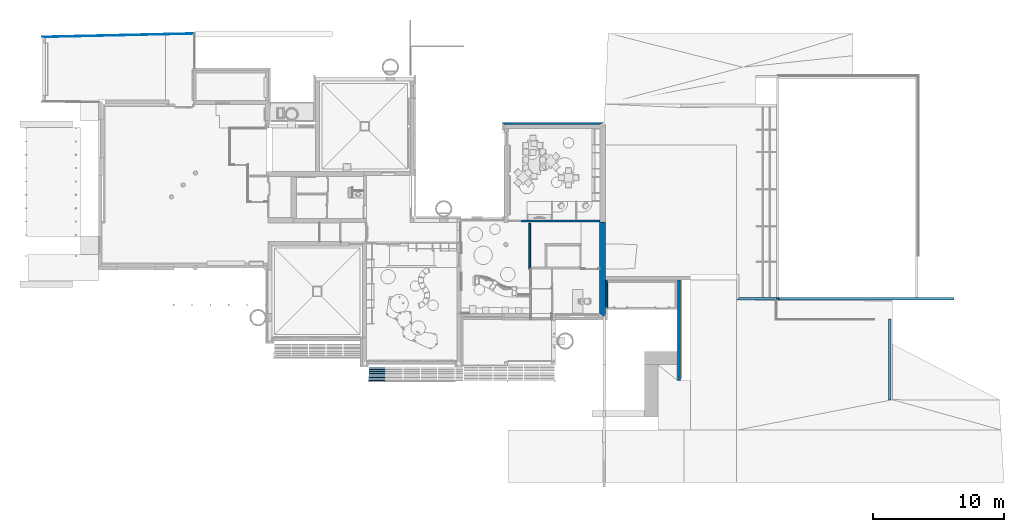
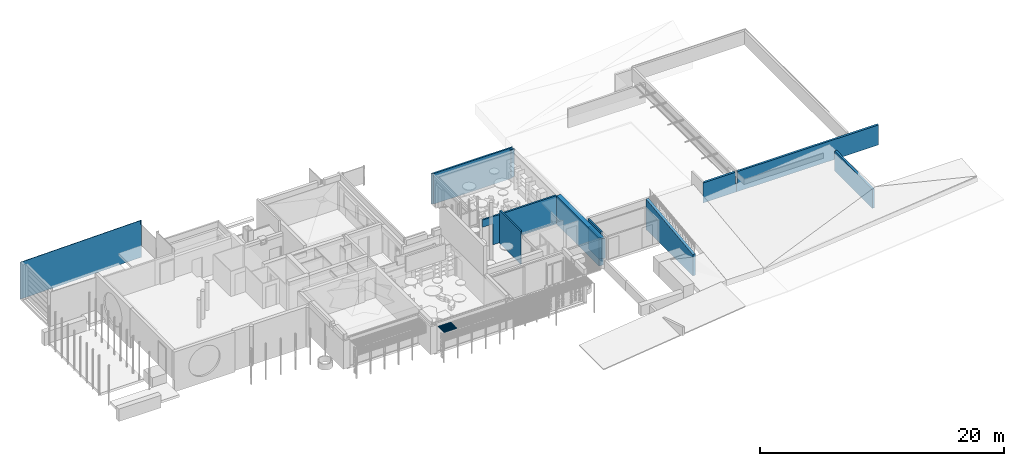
# One storey, part 29 of 64: 11 walls, 1 discrete accessory.
"""IFC2X3 building model written with IfcOpenShell, lengths in metres."""

from ifc_helpers import new_model, entity, si_unit, converted_unit, derived_unit, direction, frame, origin, place, context, subcontext, project, spatial, polyline, outline, extrude, faceted_brep, source, transform, mapped, material, layer, layer_set, type_object, type_shapes, element, save


model = new_model("IFC2X3")

# Units and contexts
model_context = context("Model", 3, precision=1e-05, world=origin(), true_north=direction((6.123031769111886e-17, 1.0)))
body_context = subcontext(model_context, "Body", "Model", "MODEL_VIEW")
ifc_project = project(units=[si_unit("LENGTHUNIT", "METRE"), si_unit("AREAUNIT", "SQUARE_METRE"), si_unit("VOLUMEUNIT", "CUBIC_METRE"), converted_unit("PLANEANGLEUNIT", "DEGREE", entity("IfcRatioMeasure", 0.017453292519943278), si_unit("PLANEANGLEUNIT", "RADIAN"), dimensions=[0, 0, 0, 0, 0, 0, 0]), si_unit("MASSUNIT", "GRAM", prefix="KILO"), derived_unit("MASSDENSITYUNIT", [(si_unit("MASSUNIT", "GRAM", prefix="KILO"), 1), (si_unit("LENGTHUNIT", "METRE"), -3)]), derived_unit("MOMENTOFINERTIAUNIT", [(si_unit("LENGTHUNIT", "METRE"), 4)]), si_unit("TIMEUNIT", "SECOND"), si_unit("FREQUENCYUNIT", "HERTZ"), si_unit("THERMODYNAMICTEMPERATUREUNIT", "DEGREE_CELSIUS"), derived_unit("THERMALTRANSMITTANCEUNIT", [(si_unit("MASSUNIT", "GRAM", prefix="KILO"), 1), (si_unit("THERMODYNAMICTEMPERATUREUNIT", "KELVIN"), -1), (si_unit("TIMEUNIT", "SECOND"), -3)]), derived_unit("THERMALCONDUCTANCEUNIT", [(si_unit("MASSUNIT", "GRAM", prefix="KILO"), 1), (si_unit("LENGTHUNIT", "METRE"), 1), (si_unit("THERMODYNAMICTEMPERATUREUNIT", "KELVIN"), -1), (si_unit("TIMEUNIT", "SECOND"), -3)]), derived_unit("VOLUMETRICFLOWRATEUNIT", [(si_unit("LENGTHUNIT", "METRE"), 3), (si_unit("TIMEUNIT", "SECOND"), -1)]), derived_unit("MASSFLOWRATEUNIT", [(si_unit("MASSUNIT", "GRAM", prefix="KILO"), 1), (si_unit("TIMEUNIT", "SECOND"), -1)]), derived_unit("ROTATIONALFREQUENCYUNIT", [(si_unit("TIMEUNIT", "SECOND"), -1)]), si_unit("ELECTRICCURRENTUNIT", "AMPERE"), si_unit("ELECTRICVOLTAGEUNIT", "VOLT"), si_unit("POWERUNIT", "WATT"), si_unit("FORCEUNIT", "NEWTON", prefix="KILO"), si_unit("ILLUMINANCEUNIT", "LUX"), si_unit("LUMINOUSFLUXUNIT", "LUMEN"), si_unit("LUMINOUSINTENSITYUNIT", "CANDELA"), derived_unit("USERDEFINED", [(si_unit("MASSUNIT", "GRAM", prefix="KILO"), -1), (si_unit("LENGTHUNIT", "METRE"), -2), (si_unit("TIMEUNIT", "SECOND"), 3), (si_unit("LUMINOUSFLUXUNIT", "LUMEN"), 1)]), derived_unit("USERDEFINED", [(si_unit("MASSUNIT", "GRAM", prefix="KILO"), 1), (si_unit("LENGTHUNIT", "METRE"), 3), (si_unit("TIMEUNIT", "SECOND"), -3), (si_unit("ELECTRICCURRENTUNIT", "AMPERE"), -2)]), derived_unit("USERDEFINED", [(si_unit("LENGTHUNIT", "METRE"), 2), (si_unit("TIMEUNIT", "SECOND"), -2)]), derived_unit("SOUNDPOWERUNIT", [(si_unit("MASSUNIT", "GRAM", prefix="KILO"), 1), (si_unit("LENGTHUNIT", "METRE"), 2), (si_unit("TIMEUNIT", "SECOND"), -3)]), derived_unit("SOUNDPRESSUREUNIT", [(si_unit("MASSUNIT", "GRAM", prefix="KILO"), 1), (si_unit("LENGTHUNIT", "METRE"), -1), (si_unit("TIMEUNIT", "SECOND"), -2)]), derived_unit("LINEARVELOCITYUNIT", [(si_unit("LENGTHUNIT", "METRE"), 1), (si_unit("TIMEUNIT", "SECOND"), -1)]), si_unit("PRESSUREUNIT", "PASCAL"), derived_unit("USERDEFINED", [(si_unit("LENGTHUNIT", "METRE"), -2), (si_unit("MASSUNIT", "GRAM", prefix="KILO"), 1), (si_unit("TIMEUNIT", "SECOND"), -2)]), derived_unit("LINEARFORCEUNIT", [(si_unit("MASSUNIT", "GRAM", prefix="KILO"), 1), (si_unit("LENGTHUNIT", "METRE"), 1), (si_unit("TIMEUNIT", "SECOND"), -2), (si_unit("LENGTHUNIT", "METRE"), -1)]), derived_unit("PLANARFORCEUNIT", [(si_unit("MASSUNIT", "GRAM", prefix="KILO"), 1), (si_unit("LENGTHUNIT", "METRE"), 1), (si_unit("TIMEUNIT", "SECOND"), -2), (si_unit("LENGTHUNIT", "METRE"), -2)]), derived_unit("SPECIFICHEATCAPACITYUNIT", [(si_unit("LENGTHUNIT", "METRE"), 2), (si_unit("TIMEUNIT", "SECOND"), -2), (si_unit("THERMODYNAMICTEMPERATUREUNIT", "KELVIN"), -1)]), derived_unit("VAPORPERMEABILITYUNIT", [(si_unit("TIMEUNIT", "SECOND"), 1), (si_unit("LENGTHUNIT", "METRE"), -1)]), derived_unit("DYNAMICVISCOSITYUNIT", [(si_unit("MASSUNIT", "GRAM", prefix="KILO"), 1), (si_unit("LENGTHUNIT", "METRE"), -1), (si_unit("TIMEUNIT", "SECOND"), -1)]), derived_unit("THERMALEXPANSIONCOEFFICIENTUNIT", [(si_unit("THERMODYNAMICTEMPERATUREUNIT", "KELVIN"), -1)])], contexts=[model_context])

# Site, building, storey
site_placement = place(None, origin())
site = spatial("IfcSite", under=ifc_project, at=site_placement, Name="Default", CompositionType="ELEMENT")
building_placement = place(site_placement, origin())
building = spatial("IfcBuilding", under=site, at=building_placement, CompositionType="ELEMENT")
storey_placement = place(building_placement, origin())
storey = spatial("IfcBuildingStorey", under=building, at=storey_placement, Name="REZ-DE-CHAUSSÉE", CompositionType="ELEMENT", Elevation=0.0)

# Walls
wall_type_1 = type_object("IfcWallType", Name="MurExt-021", PredefinedType="NOTDEFINED")
wall_1_placement = place(storey_placement, frame((133.89075228, 2.967209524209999, 0.05), z_axis=(0.0, 0.0, 1.0), x_axis=(0.0, 1.0, 0.0)))
element("IfcWall", 1, at=wall_1_placement, inside=storey, type_object=wall_type_1, Name="MurExt-021:MurExt-021", ObjectType="MurExt-021:MurExt-021", context=body_context, shape_type="Brep", body=[
    faceted_brep([(0.0, -0.24999999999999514, 0.0), (0.0, 0.0, 0.0), (7.67000002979, 0.0, 0.0), (7.67000002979, -0.24999999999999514, 0.0), (0.0, 0.0, 2.1295999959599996), (7.67000002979, 0.0, 3.04999999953), (7.67000002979, 0.0, 3.01), (0.0, -0.24999999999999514, 2.129599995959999), (7.67000002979, -0.24999999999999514, 3.01), (7.6700000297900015, -0.24999999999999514, 3.04999999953)], [[[0, 1, 2, 3]], [[2, 1, 4, 5, 6]], [[1, 0, 7, 4]], [[0, 3, 8, 9, 7]], [[6, 8, 3, 2]], [[9, 5, 4, 7]], [[8, 6, 5, 9]]]),
])
wall_type_2 = type_object("IfcWallType", Name="MurExt-021", PredefinedType="NOTDEFINED")
wall_2_placement = place(storey_placement, frame((150.00075228, 1.4872094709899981, 2.05), z_axis=(0.0, 0.0, 1.0), x_axis=(0.0, 1.0, 0.0)))
element("IfcWall", 2, at=wall_2_placement, inside=storey, type_object=wall_type_2, Name="MurExt-021 147586:MurExt-021 147586", ObjectType="MurExt-021 147586:MurExt-021 147586", context=body_context, shape_type="Brep", body=[
    faceted_brep([(0.0, 0.0, 0.0), (6.1600000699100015, 0.0, 0.0), (6.1600000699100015, -0.1999999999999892, 0.0), (0.0, -0.1999999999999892, 0.0), (0.0, 0.0, 1.8967999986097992), (6.1600000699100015, 0.0, 2.02000000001), (0.0, -0.1999999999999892, 1.8967999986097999), (6.160000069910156, -0.1999999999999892, 2.0200000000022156)], [[[0, 1, 2, 3]], [[1, 0, 4, 5]], [[0, 3, 6, 4]], [[3, 2, 7, 6]], [[2, 1, 5, 7]], [[5, 4, 6, 7]]]),
])
ifc_material_1 = material(Name="Enduit - Jaune nature")
ifc_layer_1 = layer(ifc_material_1, 0.02)
ifc_material_2 = material(Name="Isolation - Fibre de verre")
ifc_layer_2 = layer(ifc_material_2, 0.14)
ifc_layer_set_1 = layer_set([ifc_layer_1, ifc_layer_2], Name="Mur de base:ABA ITE 140 + enduit 160")
wall_type_3 = type_object("IfcWallType", Name="Mur de base:ABA ITE 140 + enduit 160", PredefinedType="STANDARD", material=ifc_layer_set_1)
wall_3_placement = place(storey_placement, frame((120.52075227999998, 22.577209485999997, 0.0)))
element("IfcWallStandardCase", 3, at=wall_3_placement, inside=storey, type_object=wall_type_3, Name="MurExt-012", ObjectType="Mur de base:ABA ITE 140 + enduit 160", context=body_context, shape_type="Brep", body=[
    faceted_brep([(0.15999999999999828, -0.07999999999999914, 0.0), (7.47, -0.07999999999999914, 0.0), (7.4700000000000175, -0.07999999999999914, 2.82), (7.390000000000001, -0.07999999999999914, 2.82), (7.390000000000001, -0.07999999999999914, 3.06), (0.15999999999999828, -0.07999999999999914, 3.06), (0.0, 0.07999999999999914, 0.0), (0.0, 0.07999999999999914, 3.06), (7.680000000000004, 0.07999999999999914, 3.06), (7.680000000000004, 0.07999999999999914, 2.82), (7.880000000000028, 0.07999999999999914, 2.82), (7.8800000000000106, 0.07999999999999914, 0.0)], [[[0, 1, 2, 3, 4, 5]], [[6, 7, 8, 9, 10, 11]], [[1, 0, 6, 11]], [[5, 4, 8, 7]], [[0, 5, 7, 6]], [[9, 3, 2, 10]], [[2, 1, 11, 10]], [[4, 3, 9, 8]]]),
])
wall_4_placement = place(storey_placement, frame((128.48075228, 10.637209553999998, 2.3499999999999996), z_axis=(0.0, 0.0, 1.0), x_axis=(0.0, -1.0, 0.0)))
element("IfcWallStandardCase", 4, at=wall_4_placement, inside=storey, type_object=wall_type_3, Name="MurExt-012", ObjectType="Mur de base:ABA ITE 140 + enduit 160", context=body_context, shape_type="Brep", body=[
    faceted_brep([(0.0, -0.07999999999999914, 0.0), (2.12, -0.07999999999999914, 0.0), (2.12, -0.07999999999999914, 0.05), (2.184999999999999, -0.07999999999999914, 0.05), (2.184999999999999, -0.07999999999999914, 0.6900000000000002), (0.0, -0.07999999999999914, 0.6900000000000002), (0.0, 0.07999999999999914, 0.0), (0.0, 0.07999999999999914, 0.6900000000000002), (2.184999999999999, 0.07999999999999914, 0.6900000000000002), (2.184999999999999, 0.07999999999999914, 0.05), (2.12, 0.07999999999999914, 0.05), (2.12, 0.07999999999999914, 0.0), (2.12, -0.030000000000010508, 0.0)], [[[0, 1, 2, 3, 4, 5]], [[6, 7, 8, 9, 10, 11]], [[1, 0, 6, 11, 12]], [[5, 4, 8, 7]], [[0, 5, 7, 6]], [[4, 3, 9, 8]], [[9, 3, 2, 10]], [[2, 1, 12, 11, 10]]]),
])
ifc_material_3 = material(Name="Béton - Parpaing (Blocs)")
ifc_layer_3 = layer(ifc_material_3, 0.2)
ifc_layer_set_2 = layer_set([ifc_layer_3], Name="Mur de base:Struct. - Parpaing béton 200")
wall_type_4 = type_object("IfcWallType", Name="Mur de base:Struct. - Parpaing béton 200", PredefinedType="STANDARD", material=ifc_layer_set_2)
wall_5_placement = place(storey_placement, frame((141.56275227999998, 9.18720952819, 2.05), z_axis=(0.0, 0.0, 1.0), x_axis=(-1.0, 0.0, 0.0)))
element("IfcWallStandardCase", 5, at=wall_5_placement, inside=storey, type_object=wall_type_4, Name="MurExt-021", ObjectType="Mur de base:Struct. - Parpaing béton 200", context=body_context, shape_type="Brep", body=[
    faceted_brep([(0.0, -0.1, 0.0), (2.9620000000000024, -0.1, 0.0), (2.9620000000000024, -0.1, 2.0), (0.0999999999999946, -0.1, 2.0), (0.0999999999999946, -0.1, 0.8), (0.0, -0.1, 0.8), (0.0, 0.1, 0.0), (0.0, 0.1, 0.8), (0.0999999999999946, 0.1, 0.8), (0.0999999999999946, 0.1, 2.0), (3.1619999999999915, 0.1, 2.0), (3.1619999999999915, 0.1, 0.0)], [[[0, 1, 2, 3, 4, 5]], [[6, 7, 8, 9, 10, 11]], [[1, 0, 6, 11]], [[3, 2, 10, 9]], [[2, 1, 11, 10]], [[0, 5, 7, 6]], [[4, 8, 7, 5]], [[4, 3, 9, 8]]]),
])
wall_6_placement = place(storey_placement, frame((154.97575227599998, 9.18720952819, 2.05), z_axis=(0.0, 0.0, 1.0), x_axis=(-1.0, 0.0, 0.0)))
element("IfcWallStandardCase", 6, at=wall_6_placement, inside=storey, type_object=wall_type_4, Name="MurExt-021", ObjectType="Mur de base:Struct. - Parpaing béton 200", context=body_context, shape_type="Brep", body=[
    faceted_brep([(0.0, -0.1, 0.0), (13.41299999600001, -0.1, 0.0), (13.41299999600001, -0.1, 0.8), (13.312999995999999, -0.1, 0.8), (13.312999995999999, -0.1, 2.0), (0.0, -0.1, 2.0), (0.0, 0.1, 0.0), (0.0, 0.1, 2.0), (13.312999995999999, 0.1, 2.0), (13.312999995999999, 0.1, 0.8), (13.41299999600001, 0.1, 0.8), (13.41299999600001, 0.1, 0.0)], [[[0, 1, 2, 3, 4, 5]], [[6, 7, 8, 9, 10, 11]], [[1, 0, 6, 11]], [[5, 4, 8, 7]], [[0, 5, 7, 6]], [[2, 1, 11, 10]], [[9, 3, 2, 10]], [[4, 3, 9, 8]]]),
])
ifc_material_4 = material(Name="Appareillage - Pierre taillé")
ifc_layer_4 = layer(ifc_material_4, 0.16)
ifc_layer_set_3 = layer_set([ifc_layer_4], Name="Mur de base:Struct. - Pierre 160")
wall_type_5 = type_object("IfcWallType", Name="Mur de base:Struct. - Pierre 160", PredefinedType="STANDARD", material=ifc_layer_set_3)
wall_7_placement = place(storey_placement, frame((127.99075228, 15.127209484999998, 0.0), z_axis=(0.0, 0.0, 1.0), x_axis=(-1.0, 0.0, 0.0)))
element("IfcWallStandardCase", 7, at=wall_7_placement, inside=storey, type_object=wall_type_5, Name="MurExt-010", ObjectType="Mur de base:Struct. - Pierre 160", context=body_context, shape_type="Brep", body=[
    faceted_brep([(7.0100000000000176, -0.0800000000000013, 2.8199999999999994), (0.0, -0.0800000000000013, 2.8199999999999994), (0.0, -0.0800000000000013, 0.0), (6.0249999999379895, -0.0800000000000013, 0.0), (6.0249999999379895, -0.0800000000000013, 2.09), (6.980000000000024, -0.0800000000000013, 2.09), (6.980000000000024, -0.0800000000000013, 2.8), (7.0100000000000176, -0.0800000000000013, 2.8), (0.0, 0.07999999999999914, 2.8199999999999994), (0.02000000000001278, 0.07999999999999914, 2.8199999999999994), (7.0100000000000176, 0.07999999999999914, 2.8199999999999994), (7.0100000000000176, 0.07999999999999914, 2.8), (6.980000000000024, 0.07999999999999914, 2.8), (6.980000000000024, 0.07999999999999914, 2.09), (6.0249999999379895, 0.07999999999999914, 2.09), (6.0249999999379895, 0.07999999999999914, 0.0), (0.02000000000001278, 0.07999999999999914, 0.0), (0.0, 0.07999999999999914, 0.0)], [[[0, 1, 2, 3, 4, 5, 6, 7]], [[8, 9, 10, 11, 12, 13, 14, 15, 16, 17]], [[2, 17, 16, 15, 3]], [[1, 0, 10, 9, 8]], [[4, 14, 13, 5]], [[14, 4, 3, 15]], [[2, 1, 8, 17]], [[7, 6, 12, 11]], [[12, 6, 5, 13]], [[0, 7, 11, 10]]]),
])
ifc_layer_5 = layer(ifc_material_4, 0.14)
ifc_layer_set_4 = layer_set([ifc_layer_5], Name="Mur de base:Struct. - Pierre 140")
wall_type_6 = type_object("IfcWallType", Name="Mur de base:Struct. - Pierre 140", PredefinedType="STANDARD", material=ifc_layer_set_4)
wall_8_placement = place(storey_placement, frame((122.63075228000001, 11.437209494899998, 0.0), z_axis=(0.0, 0.0, 1.0), x_axis=(0.0, 1.0, 0.0)))
element("IfcWallStandardCase", 8, at=wall_8_placement, inside=storey, type_object=wall_type_6, Name="MurExt-012", ObjectType="Mur de base:Struct. - Pierre 140", context=body_context, shape_type="Brep", body=[
    faceted_brep([(0.16999999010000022, -0.07000000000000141, 3.06), (0.16999999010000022, -0.07000000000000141, 0.0), (3.5099999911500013, -0.07000000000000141, 0.0), (3.5099999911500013, -0.07000000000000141, 3.3), (0.17000000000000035, -0.07000000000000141, 3.3), (0.009999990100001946, 0.07000000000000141, 0.0), (0.009999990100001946, 0.07000000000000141, 3.06), (0.0, 0.07000000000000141, 3.06), (0.0, 0.07000000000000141, 3.3), (3.5099999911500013, 0.07000000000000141, 3.3), (3.5099999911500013, 0.07000000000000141, 0.0), (0.17000000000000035, -0.07000000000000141, 3.06)], [[[0, 1, 2, 3, 4]], [[5, 6, 7, 8, 9, 10]], [[2, 1, 5, 10]], [[3, 2, 10, 9]], [[4, 3, 9, 8]], [[11, 7, 6]], [[0, 6, 5, 1]], [[11, 4, 8, 7]]]),
])
ifc_layer_6 = layer(ifc_material_4, 0.43)
ifc_layer_set_5 = layer_set([ifc_layer_6], Name="Mur de base:Struct. - Pierre 430")
wall_type_7 = type_object("IfcWallType", Name="Mur de base:Struct. - Pierre 430", PredefinedType="STANDARD", material=ifc_layer_set_5)
wall_9_placement = place(storey_placement, frame((128.18575228, 15.047209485, 0.0), z_axis=(0.0, 0.0, 1.0), x_axis=(0.0, -1.0, 0.0)))
element("IfcWallStandardCase", 9, at=wall_9_placement, inside=storey, type_object=wall_type_7, Name="MurExt-002", ObjectType="Mur de base:Struct. - Pierre 430", context=body_context, shape_type="Brep", body=[
    faceted_brep([(0.0, -0.2150000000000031, 0.0), (3.530000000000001, -0.2150000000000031, 0.0), (3.6, -0.2150000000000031, 0.0), (6.970000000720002, -0.2150000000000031, 0.0), (6.970000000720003, -0.2150000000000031, 0.7999999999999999), (6.970000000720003, -0.2150000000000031, 2.8199999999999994), (0.0, -0.2150000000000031, 2.8199999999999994), (0.0, 0.2150000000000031, 0.0), (0.0, 0.2150000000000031, 2.8199999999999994), (7.300000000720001, 0.2150000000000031, 2.8199999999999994), (7.300000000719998, 0.2150000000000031, 0.7999999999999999), (6.970000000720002, 0.2150000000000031, 0.7999999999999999), (6.970000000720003, 0.2150000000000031, 0.0), (0.0, -0.19499999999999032, 0.0), (0.0, -0.19499999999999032, 2.8199999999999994), (7.214078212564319, 0.10304130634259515, 0.7999999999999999)], [[[0, 1, 2, 3, 4, 5, 6]], [[7, 8, 9, 10, 11, 12]], [[3, 2, 1, 0, 13, 7, 12]], [[6, 5, 9, 8, 14]], [[0, 6, 14, 8, 7, 13]], [[10, 15, 4, 11]], [[4, 3, 12, 11]], [[5, 4, 15, 10, 9]]]),
])
ifc_material_5 = material(Name="Métal - Fer")
ifc_layer_7 = layer(ifc_material_5, 0.05)
ifc_layer_set_6 = layer_set([ifc_layer_7], Name="Mur de base:Métal - Fer 50")
wall_type_8 = type_object("IfcWallType", Name="Mur de base:Métal - Fer 50", PredefinedType="STANDARD", material=ifc_layer_set_6)
wall_10_placement = place(storey_placement, frame((85.45106958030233, 29.157028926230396, -1.2), z_axis=(0.0, 0.0, 1.0), x_axis=(0.9997463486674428, 0.022521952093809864, 0.0)))
element("IfcWallStandardCase", 10, at=wall_10_placement, inside=storey, type_object=wall_type_8, Name="MurExt-013", ObjectType="Mur de base:Métal - Fer 50", context=body_context, shape_type="Brep", body=[
    faceted_brep([(0.22893197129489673, -0.02499999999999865, 0.0), (11.582057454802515, -0.025000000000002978, 0.0), (11.582057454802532, -0.025000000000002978, 3.27), (11.532044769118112, -0.025000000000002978, 3.27), (11.53204476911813, -0.02499999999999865, 3.7), (0.22893197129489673, -0.02499999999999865, 3.7), (0.0, 0.025000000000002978, 0.0), (0.0, 0.025000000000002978, 3.7), (0.010436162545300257, 0.02499999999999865, 3.7), (11.633196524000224, 0.02499999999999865, 3.7), (11.633196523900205, 0.02499999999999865, 3.27), (11.633196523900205, 0.02499999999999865, 0.0)], [[[0, 1, 2, 3, 4, 5]], [[6, 7, 8, 9, 10, 11]], [[1, 0, 6, 11]], [[5, 4, 9, 8, 7]], [[10, 3, 2]], [[2, 1, 11, 10]], [[4, 3, 10, 9]], [[0, 5, 7, 6]]]),
])
ifc_layer_8 = layer(ifc_material_3, 0.12999999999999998)
ifc_layer_set_7 = layer_set([ifc_layer_8], Name="Mur de base:Struct. - Parpaing béton 130")
wall_type_9 = type_object("IfcWallType", Name="Mur de base:Struct. - Parpaing béton 130", PredefinedType="STANDARD", material=ifc_layer_set_7)
wall_11_placement = place(storey_placement, frame((128.51575228, 8.452209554, 0.05), z_axis=(0.0, 0.0, 1.0), x_axis=(0.0, 1.0, 0.0)))
element("IfcWallStandardCase", 11, at=wall_11_placement, inside=storey, type_object=wall_type_9, Name="MurExt-022", ObjectType="Mur de base:Struct. - Parpaing béton 130", context=body_context, shape_type="Brep", body=[
    faceted_brep([(0.0, -0.06500000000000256, 0.0), (2.004999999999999, -0.06500000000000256, 0.0), (2.004999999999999, -0.06500000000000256, 2.3), (0.0649999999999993, -0.06500000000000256, 2.3), (0.0649999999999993, -0.06500000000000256, 0.05), (0.0, -0.06500000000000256, 0.04999999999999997), (0.0, 0.06500000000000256, 0.0), (0.0, 0.06500000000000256, 0.05), (0.0649999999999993, 0.06500000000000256, 0.05), (0.0649999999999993, 0.06500000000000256, 2.3), (2.135, 0.06500000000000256, 2.3), (2.135, 0.06500000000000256, 0.0), (0.0649999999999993, -0.0450000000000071, 2.3), (0.0, -0.0450000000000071, 0.05), (0.0649999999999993, -0.0450000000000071, 0.05)], [[[0, 1, 2, 3, 4, 5]], [[6, 7, 8, 9, 10, 11]], [[1, 0, 6, 11]], [[3, 2, 10, 9, 12]], [[2, 1, 11, 10]], [[0, 5, 13, 7, 6]], [[4, 14, 8, 7, 13, 5]], [[4, 3, 12, 9, 8, 14]]]),
])

# Discrete accessory
ifc_material_6 = material(Name="Bois - Chêne clair")
discrete_accessory_type = type_object("IfcDiscreteAccessoryType", Name="Symb-0003", material=ifc_material_6)
shared_shape = source(origin(), body_context, "Body", "SweptSolid", [
    extrude(outline(polyline([(-0.04642383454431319, -0.01856953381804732), (-0.02847328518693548, -0.01856953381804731), (-0.011760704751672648, -0.01547461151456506), (0.019188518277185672, -0.003094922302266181), (0.03342516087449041, 0.006189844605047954), (0.04642383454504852, 0.01856953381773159), (0.028473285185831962, 0.018569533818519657), (0.011760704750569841, 0.015474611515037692), (-0.019188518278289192, 0.0030949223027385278), (-0.033425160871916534, -0.006189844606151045), (-0.04642383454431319, -0.01856953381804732)])), frame((110.36575228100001, 3.9072094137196, 2.6500000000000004), z_axis=(1.0, 0.0, 0.0), x_axis=(0.0, 0.9191450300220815, 0.3939192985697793)), (0.0, 0.0, 1.0), 1.2499999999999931),
    extrude(outline(polyline([(-0.0464238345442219, -0.0185695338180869), (-0.028473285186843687, -0.018569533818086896), (-0.011760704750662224, -0.015474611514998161), (0.01918851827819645, -0.003094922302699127), (0.03342516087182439, 0.006189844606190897), (0.04642383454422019, 0.018569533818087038), (0.02847328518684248, 0.01856953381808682), (0.01176070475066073, 0.0154746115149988), (-0.01918851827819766, 0.003094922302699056), (-0.033425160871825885, -0.0061898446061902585), (-0.0464238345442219, -0.0185695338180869)])), frame((110.36575228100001, 3.8032094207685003, 2.6500000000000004), z_axis=(1.0, 0.0, 0.0), x_axis=(0.0, 0.9191450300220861, 0.39391929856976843)), (0.0, 0.0, 1.0), 1.2499999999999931),
    extrude(outline(polyline([(-0.04642383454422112, -0.01856953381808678), (-0.02847328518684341, -0.01856953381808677), (-0.011760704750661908, -0.015474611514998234), (0.01918851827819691, -0.0030949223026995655), (0.03342516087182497, 0.006189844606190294), (0.04642383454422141, 0.01856953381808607), (0.028473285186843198, 0.01856953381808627), (0.011760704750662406, 0.015474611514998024), (-0.019188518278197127, 0.0030949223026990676), (-0.03342516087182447, -0.006189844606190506), (-0.04642383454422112, -0.01856953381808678)])), frame((110.36575228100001, 3.6992094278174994, 2.6500000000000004), z_axis=(1.0, 0.0, 0.0), x_axis=(0.0, 0.9191450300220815, 0.3939192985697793)), (0.0, 0.0, 1.0), 1.2499999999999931),
    extrude(outline(polyline([(-0.046423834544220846, -0.018569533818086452), (-0.028473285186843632, -0.018569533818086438), (-0.011760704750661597, -0.01547461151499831), (0.019188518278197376, -0.003094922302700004), (0.03342516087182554, 0.0061898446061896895), (0.04642383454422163, 0.018569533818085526), (0.028473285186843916, 0.018569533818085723), (0.011760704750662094, 0.015474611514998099), (-0.01918851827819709, 0.0030949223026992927), (-0.033425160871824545, -0.0061898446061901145), (-0.046423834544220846, -0.018569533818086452)])), frame((110.36575228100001, 3.5952094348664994, 2.6500000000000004), z_axis=(1.0, 0.0, 0.0), x_axis=(0.0, 0.9191450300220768, 0.3939192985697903)), (0.0, 0.0, 1.0), 1.2499999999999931),
    extrude(outline(polyline([(-0.046423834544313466, -0.018569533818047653), (-0.028473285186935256, -0.01856953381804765), (-0.011760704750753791, -0.015474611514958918), (0.019188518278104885, -0.0030949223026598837), (0.03342516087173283, 0.006189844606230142), (0.04642383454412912, 0.01856953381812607), (0.028473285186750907, 0.018569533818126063), (0.011760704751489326, 0.015474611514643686), (-0.01918851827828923, 0.0030949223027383), (-0.03342516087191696, -0.006189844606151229), (-0.046423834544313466, -0.018569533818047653)])), frame((110.36575228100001, 3.4912094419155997, 2.6500000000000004), z_axis=(1.0, 0.0, 0.0), x_axis=(0.0, 0.9191450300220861, 0.39391929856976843)), (0.0, 0.0, 1.0), 1.2499999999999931),
    extrude(outline(polyline([(-0.04642383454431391, -0.018569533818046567), (-0.028473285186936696, -0.018569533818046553), (-0.011760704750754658, -0.01547461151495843), (0.019188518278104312, -0.0030949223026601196), (0.03342516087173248, 0.006189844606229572), (0.046423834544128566, 0.018569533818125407), (0.02847328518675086, 0.018569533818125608), (0.011760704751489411, 0.015474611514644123), (-0.019188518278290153, 0.0030949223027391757), (-0.0334251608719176, -0.006189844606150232), (-0.04642383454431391, -0.018569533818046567)])), frame((110.36575228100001, 3.3872094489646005, 2.6500000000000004), z_axis=(1.0, 0.0, 0.0), x_axis=(0.0, 0.9191450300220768, 0.3939192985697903)), (0.0, 0.0, 1.0), 1.2499999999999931),
    extrude(outline(polyline([(-0.04642383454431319, -0.018569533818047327), (-0.02847328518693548, -0.018569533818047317), (-0.011760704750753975, -0.015474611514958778), (0.019188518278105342, -0.0030949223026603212), (0.033425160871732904, 0.006189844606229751), (0.046423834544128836, 0.01856953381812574), (0.02847328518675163, 0.018569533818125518), (0.011760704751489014, 0.015474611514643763), (-0.019188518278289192, 0.0030949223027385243), (-0.033425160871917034, -0.006189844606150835), (-0.04642383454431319, -0.018569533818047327)])), frame((110.36575228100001, 3.2832094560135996, 2.6500000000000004), z_axis=(1.0, 0.0, 0.0), x_axis=(0.0, 0.9191450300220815, 0.3939192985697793)), (0.0, 0.0, 1.0), 1.2499999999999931),
    extrude(outline(polyline([(-0.046423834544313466, -0.018569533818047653), (-0.028473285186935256, -0.01856953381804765), (-0.011760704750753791, -0.015474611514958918), (0.019188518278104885, -0.0030949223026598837), (0.03342516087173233, 0.006189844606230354), (0.04642383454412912, 0.01856953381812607), (0.028473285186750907, 0.018569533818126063), (0.01176070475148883, 0.015474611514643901), (-0.01918851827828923, 0.0030949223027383), (-0.03342516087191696, -0.006189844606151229), (-0.046423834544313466, -0.018569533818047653)])), frame((110.36575228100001, 3.1792094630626, 2.6500000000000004), z_axis=(1.0, 0.0, 0.0), x_axis=(0.0, 0.9191450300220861, 0.39391929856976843)), (0.0, 0.0, 1.0), 1.2499999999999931),
    extrude(outline(polyline([(-0.04642383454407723, -0.01856953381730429), (-0.028473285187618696, -0.01856953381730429), (-0.011760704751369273, -0.015474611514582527), (0.019188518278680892, -0.0030949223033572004), (0.033425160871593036, 0.006189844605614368), (0.046423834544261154, 0.018569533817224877), (0.028473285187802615, 0.018569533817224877), (0.011760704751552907, 0.015474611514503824), (-0.019188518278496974, 0.003094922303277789), (-0.03342516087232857, -0.006189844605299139), (-0.04642383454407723, -0.01856953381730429)])), frame((110.36575228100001, 3.0752094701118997, 2.6500000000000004), z_axis=(1.0, 0.0, 0.0), x_axis=(0.0, 0.9191450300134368, 0.3939192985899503)), (0.0, 0.0, 1.0), 1.2499999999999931),
    extrude(outline(polyline([(-0.046423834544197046, -0.01856953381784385), (-0.02847328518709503, -0.01856953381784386), (-0.011760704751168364, -0.015474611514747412), (0.01918851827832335, -0.003094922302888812), (0.03342516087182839, 0.006189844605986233), (0.04642383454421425, 0.018569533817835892), (0.02847328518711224, 0.0185695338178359), (0.011760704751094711, 0.015474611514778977), (-0.019188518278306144, 0.0030949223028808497), (-0.033425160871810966, -0.006189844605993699), (-0.046423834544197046, -0.01856953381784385)])), frame((110.36575228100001, 2.97120947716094, 2.6500000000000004), z_axis=(1.0, 0.0, 0.0), x_axis=(0.0, 0.9191450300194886, 0.3939192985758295)), (0.0, 0.0, 1.0), 1.249999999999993),
])
type_shapes(discrete_accessory_type, [shared_shape])
discrete_accessory_placement = place(storey_placement, origin())
element("IfcDiscreteAccessory", 12, at=discrete_accessory_placement, inside=storey, type_object=discrete_accessory_type, material=ifc_material_6, Name="Symb-0003 449687:Symb-0003 449687", ObjectType="Symb-0003 449687:Symb-0003 449687", context=body_context, shape_type="MappedRepresentation", body=[
    mapped(shared_shape, transform((0.0, 0.0, 0.0), scale=1.0)),
])

save(model, "model.ifc")
